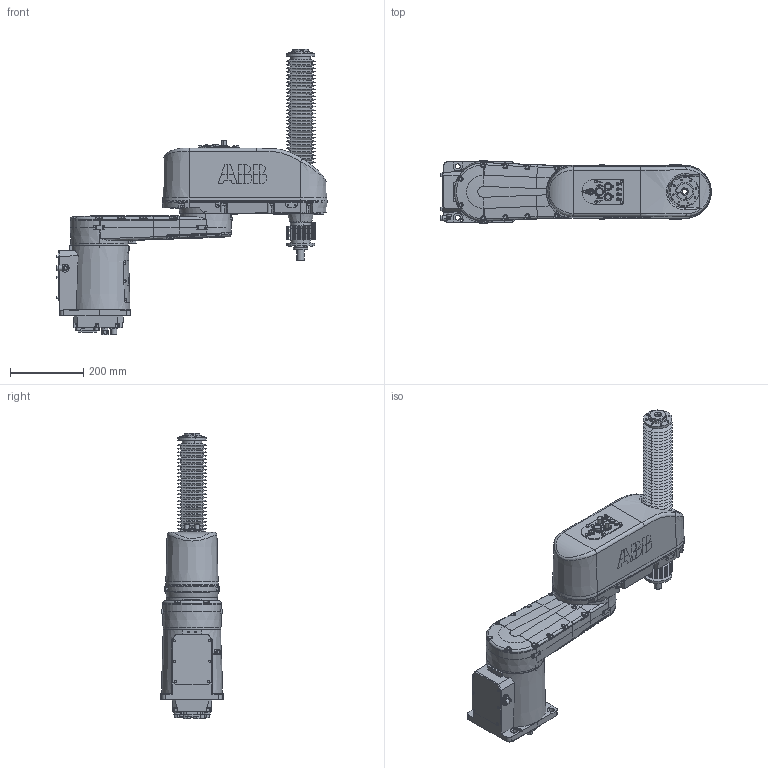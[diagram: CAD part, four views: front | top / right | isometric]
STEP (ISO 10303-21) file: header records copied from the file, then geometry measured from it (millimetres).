
FILE_DESCRIPTION (( 'STEP AP214' ), '1' );
FILE_NAME ('IRB920T_6kg-550-250-CR-BTM_OmniCore_rev00_Assembly.step', '2021-10-28T02:21:30', ( '' ), ( '' ), 'SwSTEP 2.0', 'SolidWorks 2018', '' );
FILE_SCHEMA (( 'AUTOMOTIVE_DESIGN' ));
Length unit declared in the file: millimetre
Products named in the file (5): IRB920T_6kg-550-250-IP54CR-BTM_OmniCore_rev00_LINK3_CAD; IRB920T_6kg-550-250-CR-BTM_OmniCore_rev00_Assembly; IRB920T_6kg-550-250-CR-BTM_OmniCore_rev00_LINK0_CAD; IRB920T_6kg-550-250-IP54CR-BTM_OmniCore_rev00_LINK1_CAD; IRB920T_6kg-550-250-IP54CR-BTM_OmniCore_rev00_LINK2_CAD
Assembly tree (4 placements, depth 2):
  IRB920T_6kg-550-250-CR-BTM_OmniCore_rev00_Assembly
    IRB920T_6kg-550-250-CR-BTM_OmniCore_rev00_LINK0_CAD
    IRB920T_6kg-550-250-IP54CR-BTM_OmniCore_rev00_LINK1_CAD
    IRB920T_6kg-550-250-IP54CR-BTM_OmniCore_rev00_LINK2_CAD
    IRB920T_6kg-550-250-IP54CR-BTM_OmniCore_rev00_LINK3_CAD
Bounding box: 739.75 x 170 x 781.53 mm (x, y, z)
Volume: 20354176.2 mm3; surface area: 1186346.4 mm2
Topology: 4 solids, 4 shells, 2658 faces, 6640 edges, 4235 vertices
Faces by surface type: plane 1289, cone 483, cylinder 477, bspline 392, torus 14, sphere 3
Entity records: 109365 total; most frequent: CARTESIAN_POINT 39201, ORIENTED_EDGE 13130, DIRECTION 11024, EDGE_CURVE 6565, VERTEX_POINT 4234, VECTOR 3802, LINE 3802, AXIS2_PLACEMENT_3D 3611
